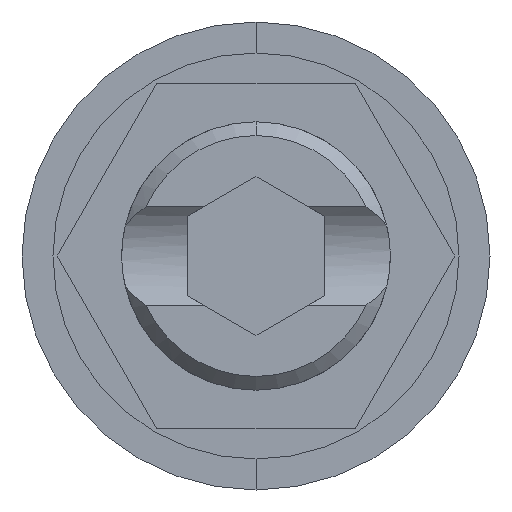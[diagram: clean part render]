
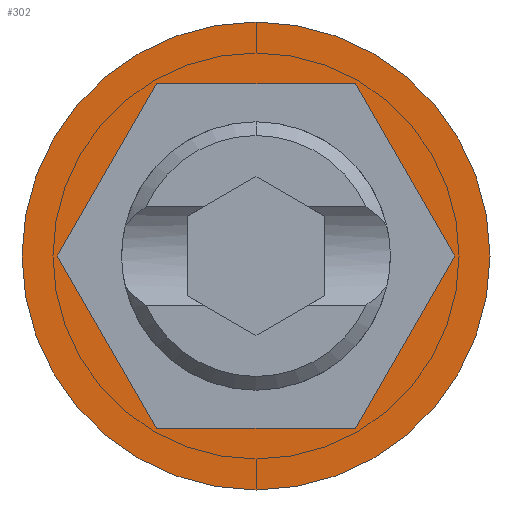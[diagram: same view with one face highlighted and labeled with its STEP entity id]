
A CAD part, front view. The second image highlights one B-rep face of the part: STEP entity #302.
In plain terms, the highlighted planar face has unit normal (0, -1, 0).
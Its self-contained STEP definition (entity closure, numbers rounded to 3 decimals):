
#4 = CIRCLE ( 'NONE', #144, 3.4 ) ;
#48 = CARTESIAN_POINT ( 'NONE',  ( 1.443, 0., -2.5 ) ) ;
#127 = EDGE_LOOP ( 'NONE', ( #497, #1800, #1087, #371, #1334, #1783 ) ) ;
#144 = AXIS2_PLACEMENT_3D ( 'NONE', #559, #568, #703 ) ;
#211 = VERTEX_POINT ( 'NONE', #545 ) ;
#213 = CARTESIAN_POINT ( 'NONE',  ( -1.443, 0., 2.5 ) ) ;
#272 = CARTESIAN_POINT ( 'NONE',  ( 2.887, 0., 0. ) ) ;
#294 = LINE ( 'NONE', #1523, #1810 ) ;
#302 = ADVANCED_FACE ( 'NONE', ( #397, #743 ), #810, .T. ) ;
#320 = EDGE_CURVE ( 'NONE', #1092, #1336, #1487, .T. ) ;
#363 = CARTESIAN_POINT ( 'NONE',  ( -2.887, 0., 0. ) ) ;
#371 = ORIENTED_EDGE ( 'NONE', *, *, #320, .F. ) ;
#397 = FACE_BOUND ( 'NONE', #127, .T. ) ;
#408 = CARTESIAN_POINT ( 'NONE',  ( 0., 0., 3.4 ) ) ;
#450 = LINE ( 'NONE', #550, #1570 ) ;
#469 = EDGE_CURVE ( 'NONE', #1799, #1821, #1398, .T. ) ;
#497 = ORIENTED_EDGE ( 'NONE', *, *, #773, .F. ) ;
#503 = CARTESIAN_POINT ( 'NONE',  ( 0., 0., -3.4 ) ) ;
#522 = DIRECTION ( 'NONE',  ( 0.5, 0., -0.866 ) ) ;
#545 = CARTESIAN_POINT ( 'NONE',  ( 2.887, 0., 0. ) ) ;
#550 = CARTESIAN_POINT ( 'NONE',  ( 1.443, 0., -2.5 ) ) ;
#557 = DIRECTION ( 'NONE',  ( -0.5, 0., 0.866 ) ) ;
#559 = CARTESIAN_POINT ( 'NONE',  ( 0., 0., 0. ) ) ;
#568 = DIRECTION ( 'NONE',  ( 0., -1., 0. ) ) ;
#584 = AXIS2_PLACEMENT_3D ( 'NONE', #1281, #818, #798 ) ;
#642 = CARTESIAN_POINT ( 'NONE',  ( 1.443, 0., 2.5 ) ) ;
#703 = DIRECTION ( 'NONE',  ( 0., 0., -1. ) ) ;
#707 = VERTEX_POINT ( 'NONE', #48 ) ;
#743 = FACE_OUTER_BOUND ( 'NONE', #939, .T. ) ;
#764 = EDGE_CURVE ( 'NONE', #1450, #1499, #1784, .T. ) ;
#773 = EDGE_CURVE ( 'NONE', #1821, #707, #294, .T. ) ;
#777 = CARTESIAN_POINT ( 'NONE',  ( 0., 0., 0. ) ) ;
#798 = DIRECTION ( 'NONE',  ( 0., 0., -1. ) ) ;
#810 = PLANE ( 'NONE',  #968 ) ;
#818 = DIRECTION ( 'NONE',  ( 0., -1., 0. ) ) ;
#827 = DIRECTION ( 'NONE',  ( 1., 0., 0. ) ) ;
#938 = VECTOR ( 'NONE', #557, 1000. ) ;
#939 = EDGE_LOOP ( 'NONE', ( #1125, #1665 ) ) ;
#943 = DIRECTION ( 'NONE',  ( 0., -1., 0. ) ) ;
#956 = VECTOR ( 'NONE', #1827, 1000. ) ;
#959 = CARTESIAN_POINT ( 'NONE',  ( -1.443, 0., 2.5 ) ) ;
#964 = DIRECTION ( 'NONE',  ( 0., 0., -1. ) ) ;
#968 = AXIS2_PLACEMENT_3D ( 'NONE', #777, #943, #964 ) ;
#994 = LINE ( 'NONE', #272, #938 ) ;
#1003 = EDGE_CURVE ( 'NONE', #1499, #1450, #4, .T. ) ;
#1076 = DIRECTION ( 'NONE',  ( -1., 0., 0. ) ) ;
#1087 = ORIENTED_EDGE ( 'NONE', *, *, #1240, .F. ) ;
#1092 = VERTEX_POINT ( 'NONE', #1585 ) ;
#1094 = EDGE_CURVE ( 'NONE', #211, #1092, #994, .T. ) ;
#1125 = ORIENTED_EDGE ( 'NONE', *, *, #1003, .T. ) ;
#1159 = CARTESIAN_POINT ( 'NONE',  ( -2.887, 0., 0. ) ) ;
#1240 = EDGE_CURVE ( 'NONE', #1336, #1799, #1350, .T. ) ;
#1281 = CARTESIAN_POINT ( 'NONE',  ( 0., 0., 0. ) ) ;
#1334 = ORIENTED_EDGE ( 'NONE', *, *, #1094, .F. ) ;
#1336 = VERTEX_POINT ( 'NONE', #959 ) ;
#1350 = LINE ( 'NONE', #213, #956 ) ;
#1398 = LINE ( 'NONE', #363, #1897 ) ;
#1421 = DIRECTION ( 'NONE',  ( 0.5, 0., 0.866 ) ) ;
#1450 = VERTEX_POINT ( 'NONE', #408 ) ;
#1487 = LINE ( 'NONE', #642, #1882 ) ;
#1499 = VERTEX_POINT ( 'NONE', #503 ) ;
#1523 = CARTESIAN_POINT ( 'NONE',  ( -1.443, 0., -2.5 ) ) ;
#1558 = CARTESIAN_POINT ( 'NONE',  ( -1.443, 0., -2.5 ) ) ;
#1570 = VECTOR ( 'NONE', #1421, 1000. ) ;
#1585 = CARTESIAN_POINT ( 'NONE',  ( 1.443, 0., 2.5 ) ) ;
#1665 = ORIENTED_EDGE ( 'NONE', *, *, #764, .T. ) ;
#1783 = ORIENTED_EDGE ( 'NONE', *, *, #1913, .F. ) ;
#1784 = CIRCLE ( 'NONE', #584, 3.4 ) ;
#1799 = VERTEX_POINT ( 'NONE', #1159 ) ;
#1800 = ORIENTED_EDGE ( 'NONE', *, *, #469, .F. ) ;
#1810 = VECTOR ( 'NONE', #827, 1000. ) ;
#1821 = VERTEX_POINT ( 'NONE', #1558 ) ;
#1827 = DIRECTION ( 'NONE',  ( -0.5, 0., -0.866 ) ) ;
#1882 = VECTOR ( 'NONE', #1076, 1000. ) ;
#1897 = VECTOR ( 'NONE', #522, 1000. ) ;
#1913 = EDGE_CURVE ( 'NONE', #707, #211, #450, .T. ) ;
